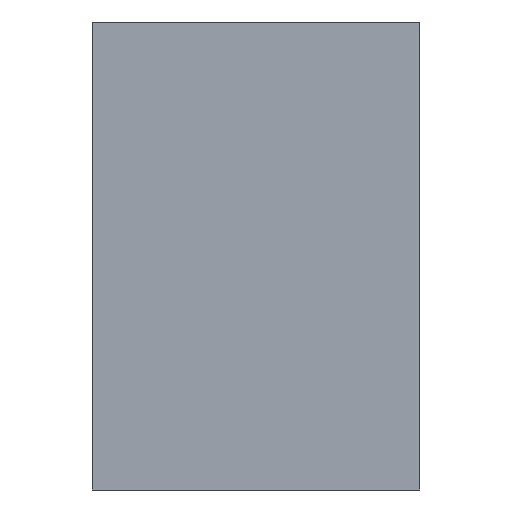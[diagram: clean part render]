
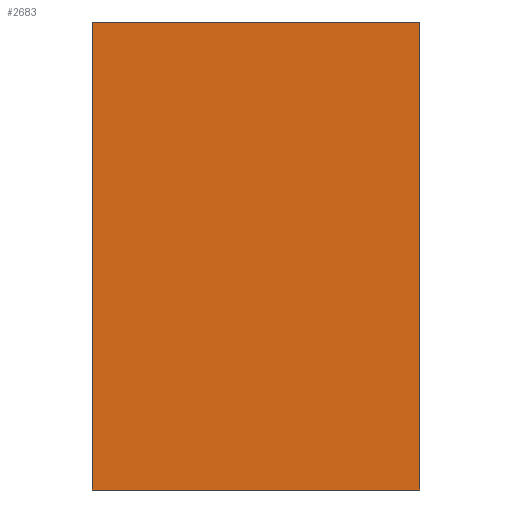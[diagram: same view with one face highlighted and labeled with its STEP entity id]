
A CAD part, left-side view. The second image highlights one B-rep face of the part: STEP entity #2683.
In plain terms, the highlighted planar face has unit normal (-1, 0, 0).
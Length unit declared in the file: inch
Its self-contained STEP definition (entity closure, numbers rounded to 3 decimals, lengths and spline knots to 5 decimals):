
#25 = CARTESIAN_POINT ( 'NONE',  ( -0.27559, 0.27559, -0.6623 ) ) ;
#169 = DIRECTION ( 'NONE',  ( 0., -1., 0. ) ) ;
#516 = EDGE_CURVE ( 'NONE', #6419, #3530, #6003, .T. ) ;
#1248 = DIRECTION ( 'NONE',  ( 0., -1., 0. ) ) ;
#1301 = CARTESIAN_POINT ( 'NONE',  ( -0.27559, 0.27559, 0.1251 ) ) ;
#1309 = ORIENTED_EDGE ( 'NONE', *, *, #5365, .T. ) ;
#1406 = AXIS2_PLACEMENT_3D ( 'NONE', #6694, #1744, #1248 ) ;
#1594 = DIRECTION ( 'NONE',  ( 0., 0., 1. ) ) ;
#1744 = DIRECTION ( 'NONE',  ( -1., 0., 0. ) ) ;
#2185 = DIRECTION ( 'NONE',  ( 0., 0., 1. ) ) ;
#2364 = LINE ( 'NONE', #4518, #3714 ) ;
#2433 = ORIENTED_EDGE ( 'NONE', *, *, #5889, .T. ) ;
#2460 = LINE ( 'NONE', #4717, #3941 ) ;
#2683 = ADVANCED_FACE ( 'NONE', ( #5096 ), #3366, .T. ) ;
#3027 = VERTEX_POINT ( 'NONE', #6650 ) ;
#3078 = VECTOR ( 'NONE', #2185, 39.37008 ) ;
#3103 = ORIENTED_EDGE ( 'NONE', *, *, #5454, .F. ) ;
#3322 = LINE ( 'NONE', #6438, #5978 ) ;
#3366 = PLANE ( 'NONE',  #1406 ) ;
#3530 = VERTEX_POINT ( 'NONE', #1301 ) ;
#3714 = VECTOR ( 'NONE', #169, 39.37008 ) ;
#3941 = VECTOR ( 'NONE', #5145, 39.37008 ) ;
#4100 = VERTEX_POINT ( 'NONE', #4375 ) ;
#4375 = CARTESIAN_POINT ( 'NONE',  ( -0.27559, -0.27559, -0.6623 ) ) ;
#4518 = CARTESIAN_POINT ( 'NONE',  ( -0.27559, 0.27559, 0.1251 ) ) ;
#4699 = CARTESIAN_POINT ( 'NONE',  ( -0.27559, 0.27559, -0.6623 ) ) ;
#4717 = CARTESIAN_POINT ( 'NONE',  ( -0.27559, 0.27559, -0.6623 ) ) ;
#5096 = FACE_OUTER_BOUND ( 'NONE', #5129, .T. ) ;
#5129 = EDGE_LOOP ( 'NONE', ( #1309, #3103, #6071, #2433 ) ) ;
#5145 = DIRECTION ( 'NONE',  ( 0., -1., 0. ) ) ;
#5365 = EDGE_CURVE ( 'NONE', #4100, #3027, #3322, .T. ) ;
#5454 = EDGE_CURVE ( 'NONE', #3530, #3027, #2364, .T. ) ;
#5889 = EDGE_CURVE ( 'NONE', #6419, #4100, #2460, .T. ) ;
#5978 = VECTOR ( 'NONE', #1594, 39.37008 ) ;
#6003 = LINE ( 'NONE', #25, #3078 ) ;
#6071 = ORIENTED_EDGE ( 'NONE', *, *, #516, .F. ) ;
#6419 = VERTEX_POINT ( 'NONE', #4699 ) ;
#6438 = CARTESIAN_POINT ( 'NONE',  ( -0.27559, -0.27559, -0.6623 ) ) ;
#6650 = CARTESIAN_POINT ( 'NONE',  ( -0.27559, -0.27559, 0.1251 ) ) ;
#6694 = CARTESIAN_POINT ( 'NONE',  ( -0.27559, 0.27559, -0.6623 ) ) ;
